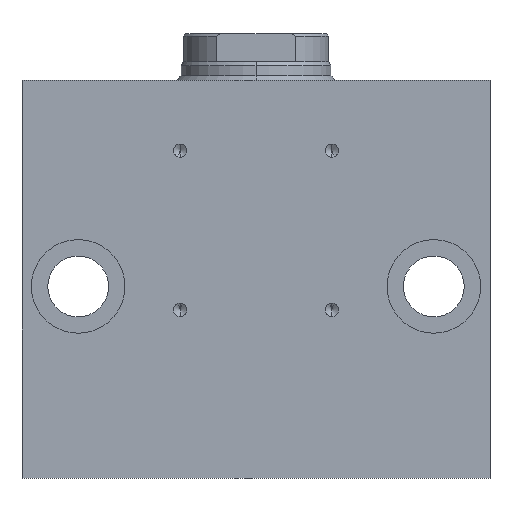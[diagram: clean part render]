
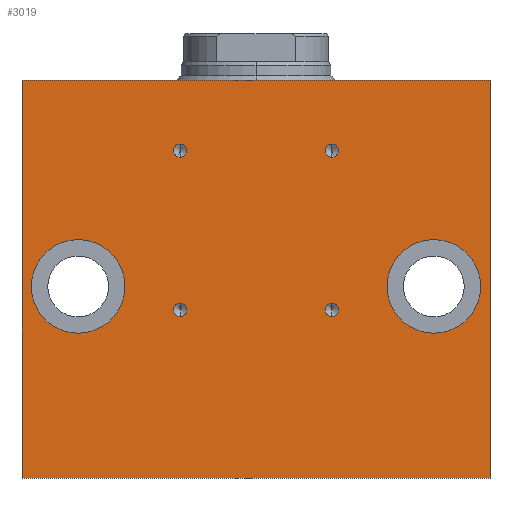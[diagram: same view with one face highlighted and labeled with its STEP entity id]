
A CAD part, left-side view. The second image highlights one B-rep face of the part: STEP entity #3019.
In plain terms, the highlighted planar face has unit normal (-1, 0, 0).
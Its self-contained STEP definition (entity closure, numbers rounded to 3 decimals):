
#34 = DIRECTION ( 'NONE',  ( 0., 0., -1. ) ) ;
#67 = CARTESIAN_POINT ( 'NONE',  ( -37.5, -50., -10. ) ) ;
#74 = DIRECTION ( 'NONE',  ( 0., 0., 1. ) ) ;
#120 = CARTESIAN_POINT ( 'NONE',  ( -37.5, -16.2, -25. ) ) ;
#171 = AXIS2_PLACEMENT_3D ( 'NONE', #859, #1329, #3883 ) ;
#186 = VERTEX_POINT ( 'NONE', #3190 ) ;
#188 = EDGE_CURVE ( 'NONE', #2044, #1629, #4827, .T. ) ;
#242 = VECTOR ( 'NONE', #391, 1000. ) ;
#291 = DIRECTION ( 'NONE',  ( 0., 0., 1. ) ) ;
#361 = FACE_BOUND ( 'NONE', #2911, .T. ) ;
#391 = DIRECTION ( 'NONE',  ( 0., -1., 0. ) ) ;
#425 = VERTEX_POINT ( 'NONE', #2233 ) ;
#447 = VERTEX_POINT ( 'NONE', #3459 ) ;
#460 = EDGE_CURVE ( 'NONE', #2132, #425, #4355, .T. ) ;
#552 = EDGE_CURVE ( 'NONE', #4390, #1035, #735, .T. ) ;
#558 = DIRECTION ( 'NONE',  ( 0., 0., 1. ) ) ;
#601 = CARTESIAN_POINT ( 'NONE',  ( -37.5, 50., -95. ) ) ;
#612 = AXIS2_PLACEMENT_3D ( 'NONE', #3393, #4186, #2301 ) ;
#643 = CARTESIAN_POINT ( 'NONE',  ( -37.5, 16.2, -26.425 ) ) ;
#649 = ORIENTED_EDGE ( 'NONE', *, *, #460, .F. ) ;
#672 = CARTESIAN_POINT ( 'NONE',  ( -37.5, 50., -10. ) ) ;
#687 = ORIENTED_EDGE ( 'NONE', *, *, #3814, .F. ) ;
#690 = EDGE_CURVE ( 'NONE', #425, #2132, #2610, .T. ) ;
#727 = EDGE_CURVE ( 'NONE', #1629, #2044, #1983, .T. ) ;
#728 = CARTESIAN_POINT ( 'NONE',  ( -37.5, 16.2, -59. ) ) ;
#733 = EDGE_CURVE ( 'NONE', #4486, #1035, #4735, .T. ) ;
#734 = CARTESIAN_POINT ( 'NONE',  ( -37.5, -16.2, -59. ) ) ;
#735 = LINE ( 'NONE', #3781, #242 ) ;
#836 = VERTEX_POINT ( 'NONE', #1369 ) ;
#848 = CARTESIAN_POINT ( 'NONE',  ( -37.5, -50., -95. ) ) ;
#859 = CARTESIAN_POINT ( 'NONE',  ( -37.5, 16.2, -25. ) ) ;
#917 = DIRECTION ( 'NONE',  ( 0., 0., -1. ) ) ;
#963 = CARTESIAN_POINT ( 'NONE',  ( -37.5, -16.2, -23.575 ) ) ;
#1005 = CIRCLE ( 'NONE', #4890, 1.425 ) ;
#1024 = DIRECTION ( 'NONE',  ( -1., 0., 0. ) ) ;
#1035 = VERTEX_POINT ( 'NONE', #67 ) ;
#1065 = CIRCLE ( 'NONE', #1146, 10. ) ;
#1100 = AXIS2_PLACEMENT_3D ( 'NONE', #120, #4280, #558 ) ;
#1146 = AXIS2_PLACEMENT_3D ( 'NONE', #3377, #4870, #34 ) ;
#1155 = CIRCLE ( 'NONE', #3938, 10. ) ;
#1190 = CARTESIAN_POINT ( 'NONE',  ( -37.5, 16.2, -60.425 ) ) ;
#1253 = AXIS2_PLACEMENT_3D ( 'NONE', #3011, #1024, #291 ) ;
#1309 = AXIS2_PLACEMENT_3D ( 'NONE', #734, #4106, #4131 ) ;
#1329 = DIRECTION ( 'NONE',  ( -1., 0., 0. ) ) ;
#1339 = AXIS2_PLACEMENT_3D ( 'NONE', #1662, #3565, #3615 ) ;
#1340 = EDGE_LOOP ( 'NONE', ( #2120, #3446 ) ) ;
#1345 = DIRECTION ( 'NONE',  ( -1., 0., 0. ) ) ;
#1360 = EDGE_LOOP ( 'NONE', ( #3106, #2378 ) ) ;
#1366 = LINE ( 'NONE', #601, #4543 ) ;
#1369 = CARTESIAN_POINT ( 'NONE',  ( -37.5, -38., -64. ) ) ;
#1409 = VECTOR ( 'NONE', #4306, 1000. ) ;
#1525 = CARTESIAN_POINT ( 'NONE',  ( -37.5, 16.2, -25. ) ) ;
#1601 = EDGE_LOOP ( 'NONE', ( #2996, #1935, #3574, #2309 ) ) ;
#1629 = VERTEX_POINT ( 'NONE', #963 ) ;
#1662 = CARTESIAN_POINT ( 'NONE',  ( -37.5, -16.2, -25. ) ) ;
#1680 = DIRECTION ( 'NONE',  ( 0., -1., 0. ) ) ;
#1761 = VERTEX_POINT ( 'NONE', #4175 ) ;
#1906 = EDGE_CURVE ( 'NONE', #4561, #2959, #1005, .T. ) ;
#1924 = EDGE_LOOP ( 'NONE', ( #3821, #687 ) ) ;
#1935 = ORIENTED_EDGE ( 'NONE', *, *, #2879, .F. ) ;
#1983 = CIRCLE ( 'NONE', #1100, 1.425 ) ;
#2011 = LINE ( 'NONE', #3891, #1409 ) ;
#2030 = CIRCLE ( 'NONE', #1309, 1.425 ) ;
#2044 = VERTEX_POINT ( 'NONE', #4700 ) ;
#2051 = CIRCLE ( 'NONE', #2668, 10. ) ;
#2094 = EDGE_CURVE ( 'NONE', #1761, #4409, #2051, .T. ) ;
#2106 = CIRCLE ( 'NONE', #4155, 10. ) ;
#2120 = ORIENTED_EDGE ( 'NONE', *, *, #4267, .F. ) ;
#2132 = VERTEX_POINT ( 'NONE', #643 ) ;
#2143 = VECTOR ( 'NONE', #3612, 1000. ) ;
#2174 = EDGE_LOOP ( 'NONE', ( #3990, #649 ) ) ;
#2204 = EDGE_CURVE ( 'NONE', #4409, #1761, #1155, .T. ) ;
#2209 = CIRCLE ( 'NONE', #612, 1.425 ) ;
#2233 = CARTESIAN_POINT ( 'NONE',  ( -37.5, 16.2, -23.575 ) ) ;
#2282 = DIRECTION ( 'NONE',  ( 0., 0., -1. ) ) ;
#2301 = DIRECTION ( 'NONE',  ( 0., 0., 1. ) ) ;
#2309 = ORIENTED_EDGE ( 'NONE', *, *, #733, .T. ) ;
#2372 = AXIS2_PLACEMENT_3D ( 'NONE', #1525, #4204, #74 ) ;
#2378 = ORIENTED_EDGE ( 'NONE', *, *, #188, .F. ) ;
#2467 = ORIENTED_EDGE ( 'NONE', *, *, #4302, .F. ) ;
#2556 = DIRECTION ( 'NONE',  ( 0., 0., 1. ) ) ;
#2568 = VERTEX_POINT ( 'NONE', #3647 ) ;
#2587 = CARTESIAN_POINT ( 'NONE',  ( -37.5, 16.2, -57.575 ) ) ;
#2610 = CIRCLE ( 'NONE', #171, 1.425 ) ;
#2668 = AXIS2_PLACEMENT_3D ( 'NONE', #3325, #3989, #4773 ) ;
#2718 = EDGE_CURVE ( 'NONE', #3653, #2568, #2209, .T. ) ;
#2850 = ORIENTED_EDGE ( 'NONE', *, *, #2204, .F. ) ;
#2879 = EDGE_CURVE ( 'NONE', #447, #4390, #2011, .T. ) ;
#2911 = EDGE_LOOP ( 'NONE', ( #2850, #4698 ) ) ;
#2943 = CARTESIAN_POINT ( 'NONE',  ( -37.5, -16.2, -57.575 ) ) ;
#2959 = VERTEX_POINT ( 'NONE', #2587 ) ;
#2987 = FACE_OUTER_BOUND ( 'NONE', #1601, .T. ) ;
#2996 = ORIENTED_EDGE ( 'NONE', *, *, #552, .F. ) ;
#3011 = CARTESIAN_POINT ( 'NONE',  ( -37.5, 50., -95. ) ) ;
#3019 = ADVANCED_FACE ( 'NONE', ( #3381, #3731, #3680, #4425, #3838, #361, #2987 ), #4521, .T. ) ;
#3106 = ORIENTED_EDGE ( 'NONE', *, *, #727, .F. ) ;
#3181 = CARTESIAN_POINT ( 'NONE',  ( -37.5, 16.2, -59. ) ) ;
#3190 = CARTESIAN_POINT ( 'NONE',  ( -37.5, -38., -44. ) ) ;
#3197 = DIRECTION ( 'NONE',  ( -1., 0., 0. ) ) ;
#3214 = CIRCLE ( 'NONE', #4244, 1.425 ) ;
#3262 = EDGE_LOOP ( 'NONE', ( #2467, #4016 ) ) ;
#3325 = CARTESIAN_POINT ( 'NONE',  ( -37.5, 38., -54. ) ) ;
#3370 = EDGE_CURVE ( 'NONE', #447, #4486, #1366, .T. ) ;
#3377 = CARTESIAN_POINT ( 'NONE',  ( -37.5, -38., -54. ) ) ;
#3381 = FACE_BOUND ( 'NONE', #2174, .T. ) ;
#3393 = CARTESIAN_POINT ( 'NONE',  ( -37.5, -16.2, -59. ) ) ;
#3419 = DIRECTION ( 'NONE',  ( -1., 0., 0. ) ) ;
#3446 = ORIENTED_EDGE ( 'NONE', *, *, #1906, .F. ) ;
#3459 = CARTESIAN_POINT ( 'NONE',  ( -37.5, 50., -95. ) ) ;
#3565 = DIRECTION ( 'NONE',  ( -1., 0., 0. ) ) ;
#3574 = ORIENTED_EDGE ( 'NONE', *, *, #3370, .T. ) ;
#3612 = DIRECTION ( 'NONE',  ( 0., 0., 1. ) ) ;
#3615 = DIRECTION ( 'NONE',  ( 0., 0., 1. ) ) ;
#3647 = CARTESIAN_POINT ( 'NONE',  ( -37.5, -16.2, -60.425 ) ) ;
#3653 = VERTEX_POINT ( 'NONE', #2943 ) ;
#3674 = EDGE_CURVE ( 'NONE', #836, #186, #2106, .T. ) ;
#3680 = FACE_BOUND ( 'NONE', #1924, .T. ) ;
#3701 = DIRECTION ( 'NONE',  ( -1., 0., 0. ) ) ;
#3709 = CARTESIAN_POINT ( 'NONE',  ( -37.5, -38., -54. ) ) ;
#3731 = FACE_BOUND ( 'NONE', #1360, .T. ) ;
#3781 = CARTESIAN_POINT ( 'NONE',  ( -37.5, 50., -10. ) ) ;
#3814 = EDGE_CURVE ( 'NONE', #2568, #3653, #2030, .T. ) ;
#3821 = ORIENTED_EDGE ( 'NONE', *, *, #2718, .F. ) ;
#3838 = FACE_BOUND ( 'NONE', #3262, .T. ) ;
#3883 = DIRECTION ( 'NONE',  ( 0., 0., 1. ) ) ;
#3891 = CARTESIAN_POINT ( 'NONE',  ( -37.5, 50., -95. ) ) ;
#3901 = DIRECTION ( 'NONE',  ( 0., 0., 1. ) ) ;
#3938 = AXIS2_PLACEMENT_3D ( 'NONE', #4142, #3419, #2282 ) ;
#3989 = DIRECTION ( 'NONE',  ( -1., 0., 0. ) ) ;
#3990 = ORIENTED_EDGE ( 'NONE', *, *, #690, .F. ) ;
#4016 = ORIENTED_EDGE ( 'NONE', *, *, #3674, .F. ) ;
#4106 = DIRECTION ( 'NONE',  ( -1., 0., 0. ) ) ;
#4131 = DIRECTION ( 'NONE',  ( 0., 0., 1. ) ) ;
#4142 = CARTESIAN_POINT ( 'NONE',  ( -37.5, 38., -54. ) ) ;
#4155 = AXIS2_PLACEMENT_3D ( 'NONE', #3709, #3197, #917 ) ;
#4175 = CARTESIAN_POINT ( 'NONE',  ( -37.5, 38., -64. ) ) ;
#4186 = DIRECTION ( 'NONE',  ( -1., 0., 0. ) ) ;
#4204 = DIRECTION ( 'NONE',  ( -1., 0., 0. ) ) ;
#4244 = AXIS2_PLACEMENT_3D ( 'NONE', #728, #3701, #2556 ) ;
#4267 = EDGE_CURVE ( 'NONE', #2959, #4561, #3214, .T. ) ;
#4280 = DIRECTION ( 'NONE',  ( -1., 0., 0. ) ) ;
#4302 = EDGE_CURVE ( 'NONE', #186, #836, #1065, .T. ) ;
#4306 = DIRECTION ( 'NONE',  ( 0., 0., 1. ) ) ;
#4355 = CIRCLE ( 'NONE', #2372, 1.425 ) ;
#4390 = VERTEX_POINT ( 'NONE', #672 ) ;
#4409 = VERTEX_POINT ( 'NONE', #4516 ) ;
#4425 = FACE_BOUND ( 'NONE', #1340, .T. ) ;
#4486 = VERTEX_POINT ( 'NONE', #848 ) ;
#4516 = CARTESIAN_POINT ( 'NONE',  ( -37.5, 38., -44. ) ) ;
#4521 = PLANE ( 'NONE',  #1253 ) ;
#4543 = VECTOR ( 'NONE', #1680, 1000. ) ;
#4561 = VERTEX_POINT ( 'NONE', #1190 ) ;
#4682 = CARTESIAN_POINT ( 'NONE',  ( -37.5, -50., -95. ) ) ;
#4698 = ORIENTED_EDGE ( 'NONE', *, *, #2094, .F. ) ;
#4700 = CARTESIAN_POINT ( 'NONE',  ( -37.5, -16.2, -26.425 ) ) ;
#4735 = LINE ( 'NONE', #4682, #2143 ) ;
#4773 = DIRECTION ( 'NONE',  ( 0., 0., -1. ) ) ;
#4827 = CIRCLE ( 'NONE', #1339, 1.425 ) ;
#4870 = DIRECTION ( 'NONE',  ( -1., 0., 0. ) ) ;
#4890 = AXIS2_PLACEMENT_3D ( 'NONE', #3181, #1345, #3901 ) ;
